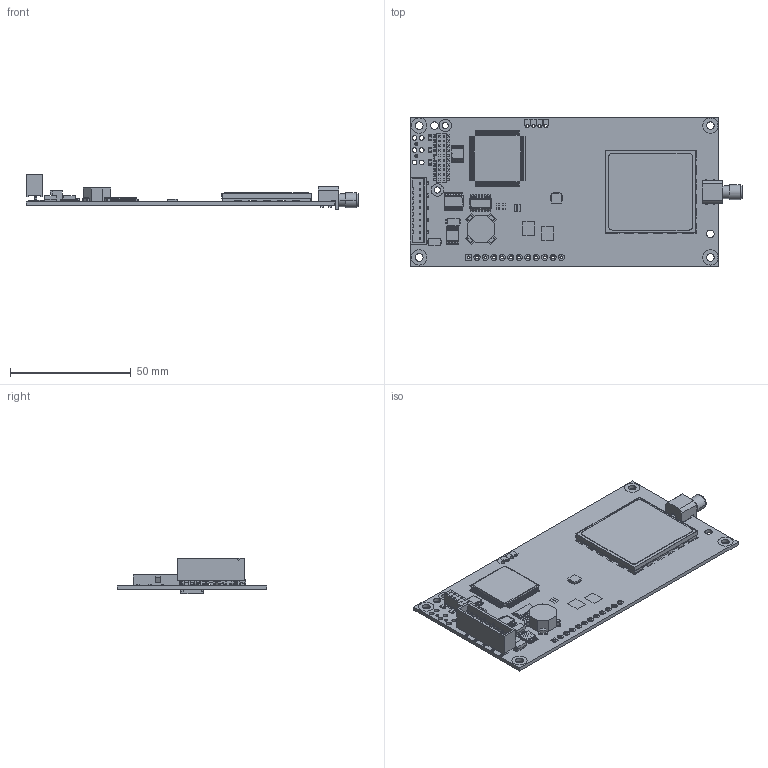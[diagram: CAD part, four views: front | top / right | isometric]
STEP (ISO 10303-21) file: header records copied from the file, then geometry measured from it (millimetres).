
FILE_DESCRIPTION (( 'STEP AP214' ), '1' );
FILE_NAME ('FGR3-C-U.STEP', '2018-12-16T23:31:35', ( '' ), ( '' ), 'SwSTEP 2.0', 'SolidWorks 2016', '' );
FILE_SCHEMA (( 'AUTOMOTIVE_DESIGN' ));
Length unit declared in the file: inch
Products named in the file (18): FGR3-C-U; LLR0040SP; ARD2401AC_Step 1; EOP0062RG; EIC3221SS; EIC1976PS; EDI1504SD; EIC3387SS; EIC3070SS; EIN0203FS; EIC4302US; EIC0256VS; ECN0013FR; MST0130SC; MST0130SF; ECN2078FP (MLE)_rev A; ECN1010ME_rev E, F; EPC0949AA
Assembly tree (20 placements, depth 3):
  FGR3-C-U
    ARD2401AC_Step 1
      EPC0949AA
      ECN1010ME_rev E, F
      ECN2078FP (MLE)_rev A
      MST0130SF
      MST0130SC
      ECN0013FR
      EIC0256VS
      EIC4302US
      EIN0203FS
      EIC3070SS
      EIC3387SS
      EDI1504SD  x2
      EIC1976PS
      EIC3221SS
      EOP0062RG  x3
    LLR0040SP
Bounding box: 137.55 x 61.85 x 14.76 mm (x, y, z)
Volume: 16354.9 mm3; surface area: 28860.5 mm2
Topology: 224 solids, 224 shells, 3986 faces, 10410 edges, 7236 vertices
Faces by surface type: plane 3284, cylinder 692, cone 8, torus 2
Entity records: 132538 total; most frequent: CARTESIAN_POINT 22571, ORIENTED_EDGE 20440, DIRECTION 19047, EDGE_CURVE 10220, VECTOR 8399, LINE 8399, VERTEX_POINT 7112, AXIS2_PLACEMENT_3D 5324
